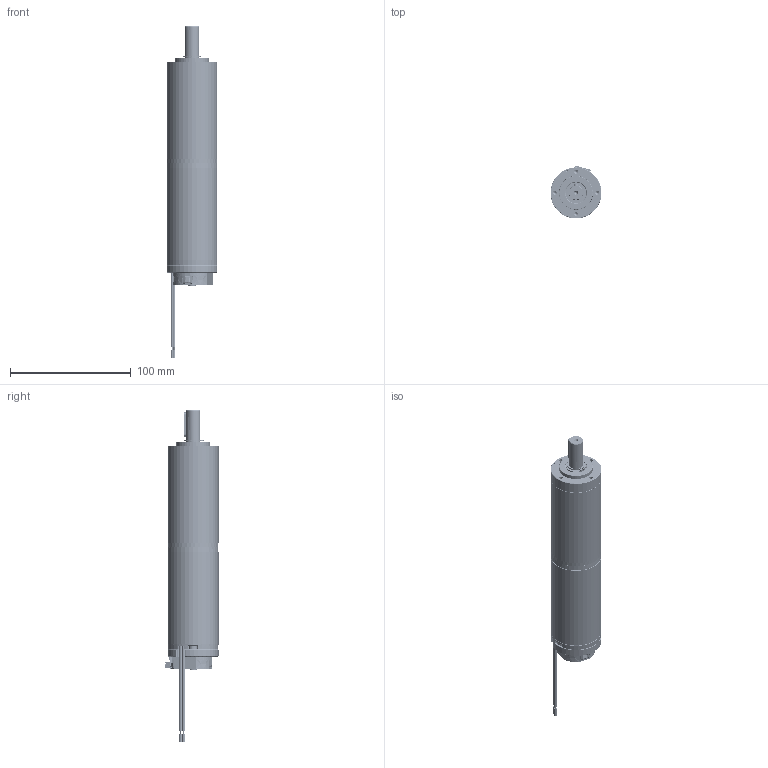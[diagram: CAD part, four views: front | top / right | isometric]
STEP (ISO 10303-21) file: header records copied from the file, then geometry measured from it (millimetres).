
FILE_DESCRIPTION (( 'STEP AP214' ), '1' );
FILE_NAME ('BRx42-40-PGx42 (4 Stage) - Diff Encoder.STEP', '2025-05-13T07:20:43', ( '' ), ( '' ), 'SwSTEP 2.0', 'SolidWorks 2023', '' );
FILE_SCHEMA (( 'AUTOMOTIVE_DESIGN' ));
Length unit declared in the file: millimetre
Products named in the file (1): BRx42-40-PGx42 (4 Stage) - Diff Encoder
Bounding box: 42 x 43.94 x 274.85 mm (x, y, z)
Volume: 166970.5 mm3; surface area: 74450.6 mm2
Topology: 28 solids, 28 shells, 7893 faces, 20921 edges, 13756 vertices
Faces by surface type: plane 5165, cylinder 1757, cone 496, bspline 227, torus 224, sphere 24
Entity records: 343351 total; most frequent: CARTESIAN_POINT 58644, ORIENTED_EDGE 41792, DIRECTION 39771, EDGE_CURVE 20896, VECTOR 14771, LINE 14771, VERTEX_POINT 13756, AXIS2_PLACEMENT_3D 12500
